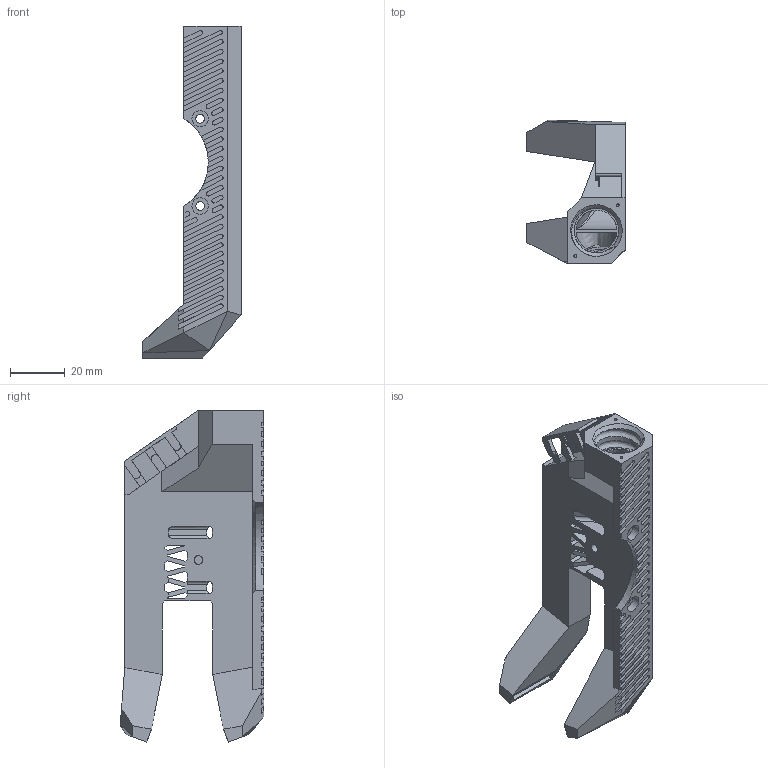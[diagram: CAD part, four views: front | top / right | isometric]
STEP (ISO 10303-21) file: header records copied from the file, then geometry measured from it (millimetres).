
FILE_DESCRIPTION(/* description */ ('CAx-IF Rec.Pracs.---Representation and Presentation of Product Manufacturing Information (PMI)---4.0---2014-10-13','CAx-IF Rec.Pracs.---3D Tessellated Geometry---0.4---2014-09-14','2;1'),/* implementation_level */ '2;1');
FILE_NAME(/* name */ 'B1G7040R',/* time_stamp */ '2025-06-16T17:37:12+03:00',/* author */ (''),/* organization */ (''),/* preprocessor_version */ 'ST-DEVELOPER v20',/* originating_system */ 'SIEMENS PLM Software NX2406.6001',/* authorisation */ $);
FILE_SCHEMA (('AP242_MANAGED_MODEL_BASED_3D_ENGINEERING_MIM_LF { 1 0 10303 442 3 1 4 }'));
Length unit declared in the file: millimetre
Products named in the file (1): B1G7040R
Bounding box: 36 x 52.7 x 121.72 mm (x, y, z)
Volume: 36583.6 mm3; surface area: 30549.4 mm2
Topology: 1 solids, 1 shells, 587 faces, 1615 edges, 1058 vertices
Faces by surface type: plane 435, cylinder 100, bspline 48, cone 4
Full cylindrical faces by diameter (mm): 1 x2, 3.2 x3, 6 x3
Entity records: 21603 total; most frequent: CARTESIAN_POINT 7252, ORIENTED_EDGE 3200, DIRECTION 2590, EDGE_CURVE 1600, LINE 1076, VECTOR 1076, VERTEX_POINT 1055, AXIS2_PLACEMENT_3D 757
